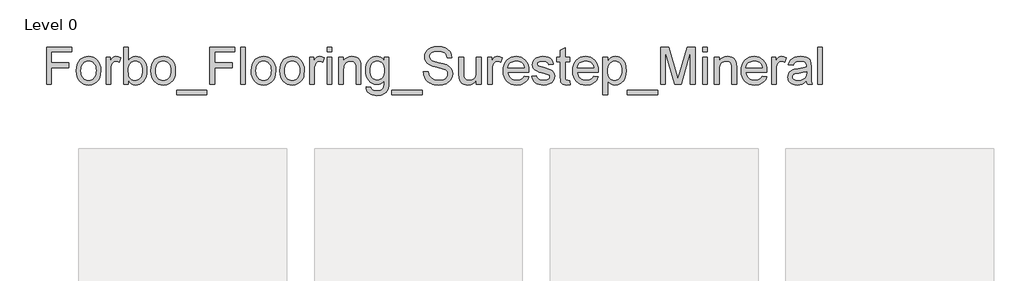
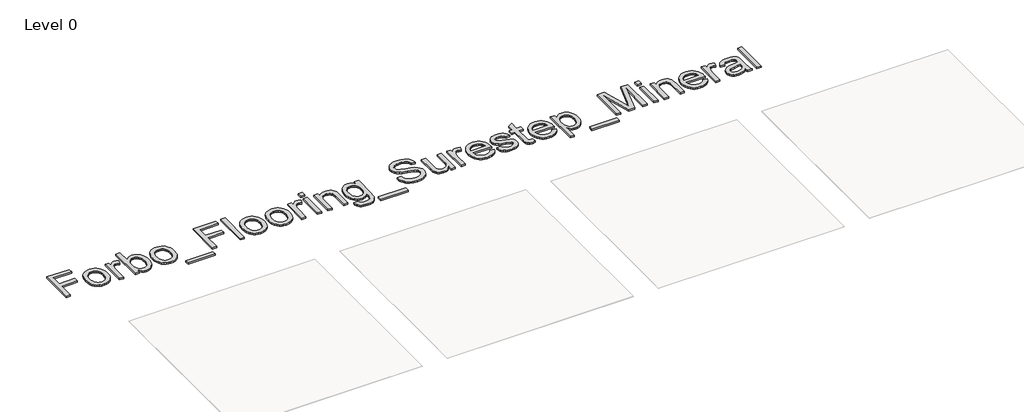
# One storey, part 3 of 4: 1 proxy.
"""IFC4 building model written with IfcOpenShell, lengths in millimetres."""

from ifc_helpers import new_model, si_unit, origin, origin_with_axes, place, context, project, spatial, polyline, outline, extrude, element, save

model = new_model("IFC4")

# Units and contexts
model_context = context("Model", 3, world=origin())
ifc_project = project(units=[si_unit("LENGTHUNIT", "METRE", prefix="MILLI")], contexts=[model_context])

# Site, building, storey
site = spatial("IfcSite", under=ifc_project)
building = spatial("IfcBuilding", under=site)
storey = spatial("IfcBuildingStorey", under=building, Name="Level 0", Elevation=0.0)

# Proxy
placement = place(None, origin())
element("IfcBuildingElementProxy", 1, Name="550mm Arial", ObjectType="550mm Arial", at=placement, inside=storey, context=model_context, shape_type="SweptSolid", body=[
    extrude(outline(polyline([(-4013.9388236, 6490.3509949), (-4013.9388236, 7029.0176615), (-3652.022157, 7029.0176615), (-3652.022157, 6961.6843282), (-3946.6054903, 6961.6843282), (-3946.6054903, 6801.7676615), (-3694.1054903, 6801.7676615), (-3694.1054903, 6734.4343282), (-3946.6054903, 6734.4343282), (-3946.6054903, 6490.3509949), (-4013.9388236, 6490.3509949)])), origin_with_axes(), (0.0, 0.0, 1.0), 25.0),
    extrude(outline(polyline([(-3584.6888236, 6688.1426615), (-3581.047629, 6739.3741882), (-3570.124045, 6783.5205912), (-3551.9180717, 6820.5818705), (-3526.4297091, 6850.5580261), (-3500.768739, 6869.7174499), (-3472.444683, 6883.4027527), (-3441.4575411, 6891.6139343), (-3407.8073132, 6894.3509949), (-3370.6597302, 6891.0180277), (-3337.0711479, 6881.0191264), (-3307.0415662, 6864.3542908), (-3280.5709851, 6841.0235209), (-3258.9662895, 6811.8158793), (-3243.534364, 6777.5204285), (-3234.2752087, 6738.1371684), (-3231.1888236, 6693.666099), (-3236.6465059, 6625.642336), (-3243.4686088, 6597.7210307), (-3253.0195528, 6573.8601094), (-3265.1801566, 6553.2499613), (-3279.831239, 6535.0809753), (-3296.9727999, 6519.3531514), (-3316.6048393, 6506.0664896), (-3360.2827364, 6487.9673686), (-3407.8073132, 6481.9343282), (-3445.4973767, 6485.2549662), (-3479.3982963, 6495.2168803), (-3509.510072, 6511.8200704), (-3535.8327038, 6535.0645365), (-3557.2072563, 6564.5557475), (-3572.4747937, 6599.8991719), (-3581.6353162, 6641.09481), (-3584.6888236, 6688.1426615)]), holes=[polyline([(-3517.3554903, 6688.2741719), (-3515.4074923, 6655.6143819), (-3509.5634981, 6627.3355326), (-3499.8235079, 6603.4376241), (-3486.1875216, 6583.9206563), (-3469.6007703, 6568.7599711), (-3451.0084851, 6557.9309102), (-3430.4106661, 6551.4334737), (-3407.8073132, 6549.2676615), (-3385.319032, 6551.4458028), (-3364.803407, 6557.9802266), (-3346.2604382, 6568.870933), (-3329.6901257, 6584.1179219), (-3316.0541394, 6603.8280456), (-3306.3141492, 6628.1081563), (-3300.470155, 6656.958254), (-3298.522157, 6690.3783386), (-3300.4824841, 6722.0024841), (-3306.3634656, 6749.5415873), (-3316.1651013, 6772.9956482), (-3329.8873913, 6792.3646667), (-3346.5193494, 6807.525352), (-3365.049989, 6818.3544128), (-3385.4793103, 6824.8518493), (-3407.8073132, 6827.0176615), (-3430.4106661, 6824.8600688), (-3451.0084851, 6818.3872904), (-3469.6007703, 6807.5993266), (-3486.1875216, 6792.4961771), (-3499.8235079, 6773.0367452), (-3509.5634981, 6749.1799337), (-3515.4074923, 6720.9257426), (-3517.3554903, 6688.2741719)])]), origin_with_axes(), (0.0, 0.0, 1.0), 25.0),
    extrude(outline(polyline([(-3155.4388236, 6490.3509949), (-3155.4388236, 6885.9343282), (-3096.522157, 6885.9343282), (-3096.522157, 6827.4121928), (-3074.757183, 6861.3418803), (-3054.7018445, 6881.3314636), (-3034.5807507, 6891.096112), (-3012.6185111, 6894.3509949), (-2979.0833549, 6889.1563334), (-2945.022157, 6873.572349), (-2967.5104382, 6813.2090678), (-2991.1823132, 6823.5655131), (-3014.8541882, 6827.0176615), (-3034.9588432, 6823.6970235), (-3052.9264538, 6813.7351094), (-3067.4419161, 6797.8881042), (-3077.1901257, 6776.9121928), (-3085.3766492, 6739.3002136), (-3088.1054903, 6698.2689636), (-3088.1054903, 6490.3509949), (-3155.4388236, 6490.3509949)])), origin_with_axes(), (0.0, 0.0, 1.0), 25.0),
    extrude(outline(polyline([(-2835.6054903, 6490.3509949), (-2902.9388236, 6490.3509949), (-2902.9388236, 7029.0176615), (-2835.6054903, 7029.0176615), (-2835.6054903, 6829.2533386), (-2813.4624239, 6857.7335632), (-2788.4590059, 6878.0765808), (-2760.5952364, 6890.2823913), (-2729.8711153, 6894.3509949), (-2695.1852429, 6890.685142), (-2662.4062716, 6879.6875834), (-2633.4082247, 6862.0487488), (-2610.0651257, 6838.4590678), (-2591.768739, 6809.1486837), (-2577.9108288, 6774.3477396), (-2569.1818249, 6735.5028503), (-2566.272157, 6694.0606303), (-2569.2845675, 6646.240155), (-2578.3217989, 6604.1732605), (-2593.3838513, 6567.8599467), (-2614.4707247, 6537.3002136), (-2639.7823702, 6513.0776387), (-2667.518739, 6495.7757995), (-2697.6798311, 6485.394696), (-2730.2656466, 6481.9343282), (-2762.000754, 6486.397463), (-2790.1357637, 6499.7868673), (-2814.6706759, 6522.1025411), (-2835.6054903, 6553.3444844), (-2835.6054903, 6490.3509949)]), holes=[polyline([(-2835.6054903, 6690.9043803), (-2831.0026257, 6634.7494324), (-2825.249045, 6613.4776225), (-2817.194032, 6596.7429219), (-2800.8785209, 6575.9724955), (-2781.9163627, 6561.1364766), (-2760.3075574, 6552.2348653), (-2736.0521049, 6549.2676615), (-2715.9145723, 6551.4540222), (-2697.1907768, 6558.0131042), (-2679.8807182, 6568.9449076), (-2663.9843966, 6584.2494324), (-2650.6936251, 6603.8855814), (-2641.2002169, 6627.8122579), (-2635.5041719, 6656.0294617), (-2633.6054903, 6688.5371928), (-2635.4260876, 6721.661379), (-2640.8878796, 6750.149823), (-2649.9908663, 6774.0025248), (-2662.7350476, 6793.2194844), (-2678.0601208, 6808.0061869), (-2694.9057833, 6818.5681173), (-2713.2720349, 6824.9052755), (-2733.1588757, 6827.0176615), (-2753.2964083, 6824.8313008), (-2772.0202038, 6818.2722188), (-2789.3302624, 6807.3404154), (-2805.2265841, 6792.0358907), (-2818.5173555, 6772.5970072), (-2828.0107637, 6749.2621277), (-2833.7068087, 6722.031252), (-2835.6054903, 6690.9043803)])]), origin_with_axes(), (0.0, 0.0, 1.0), 25.0),
    extrude(outline(polyline([(-2507.3554903, 6688.1426615), (-2503.7142956, 6739.3741882), (-2492.7907117, 6783.5205912), (-2474.5847384, 6820.5818705), (-2449.0963757, 6850.5580261), (-2423.4354057, 6869.7174499), (-2395.1113497, 6883.4027527), (-2364.1242078, 6891.6139343), (-2330.4739799, 6894.3509949), (-2293.3263969, 6891.0180277), (-2259.7378145, 6881.0191264), (-2229.7082328, 6864.3542908), (-2203.2376518, 6841.0235209), (-2181.6329561, 6811.8158793), (-2166.2010307, 6777.5204285), (-2156.9418754, 6738.1371684), (-2153.8554903, 6693.666099), (-2159.3131726, 6625.642336), (-2166.1352755, 6597.7210307), (-2175.6862195, 6573.8601094), (-2187.8468233, 6553.2499613), (-2202.4979057, 6535.0809753), (-2219.6394665, 6519.3531514), (-2239.2715059, 6506.0664896), (-2282.9494031, 6487.9673686), (-2330.4739799, 6481.9343282), (-2368.1640434, 6485.2549662), (-2402.064963, 6495.2168803), (-2432.1767387, 6511.8200704), (-2458.4993705, 6535.0645365), (-2479.8739229, 6564.5557475), (-2495.1414604, 6599.8991719), (-2504.3019828, 6641.09481), (-2507.3554903, 6688.1426615)]), holes=[polyline([(-2440.022157, 6688.2741719), (-2438.0741589, 6655.6143819), (-2432.2301648, 6627.3355326), (-2422.4901746, 6603.4376241), (-2408.8541882, 6583.9206563), (-2392.2674369, 6568.7599711), (-2373.6751518, 6557.9309102), (-2353.0773328, 6551.4334737), (-2330.4739799, 6549.2676615), (-2307.9856986, 6551.4458028), (-2287.4700736, 6557.9802266), (-2268.9271049, 6568.870933), (-2252.3567924, 6584.1179219), (-2238.7208061, 6603.8280456), (-2228.9808158, 6628.1081563), (-2223.1368217, 6656.958254), (-2221.1888236, 6690.3783386), (-2223.1491508, 6722.0024841), (-2229.0301322, 6749.5415873), (-2238.831768, 6772.9956482), (-2252.554058, 6792.3646667), (-2269.186016, 6807.525352), (-2287.7166557, 6818.3544128), (-2308.145977, 6824.8518493), (-2330.4739799, 6827.0176615), (-2353.0773328, 6824.8600688), (-2373.6751518, 6818.3872904), (-2392.2674369, 6807.5993266), (-2408.8541882, 6792.4961771), (-2422.4901746, 6773.0367452), (-2432.2301648, 6749.1799337), (-2438.0741589, 6720.9257426), (-2440.022157, 6688.2741719)])]), origin_with_axes(), (0.0, 0.0, 1.0), 25.0),
    extrude(outline(polyline([(-2137.022157, 6338.8509949), (-2137.022157, 6406.1843282), (-1699.3554903, 6406.1843282), (-1699.3554903, 6338.8509949), (-2137.022157, 6338.8509949)])), origin_with_axes(), (0.0, 0.0, 1.0), 25.0),
    extrude(outline(polyline([(-1657.272157, 6490.3509949), (-1657.272157, 7029.0176615), (-1295.3554903, 7029.0176615), (-1295.3554903, 6961.6843282), (-1589.9388236, 6961.6843282), (-1589.9388236, 6801.7676615), (-1337.4388236, 6801.7676615), (-1337.4388236, 6734.4343282), (-1589.9388236, 6734.4343282), (-1589.9388236, 6490.3509949), (-1657.272157, 6490.3509949)])), origin_with_axes(), (0.0, 0.0, 1.0), 25.0),
    extrude(outline(polyline([(-1211.1888236, 6490.3509949), (-1211.1888236, 7029.0176615), (-1143.8554903, 7029.0176615), (-1143.8554903, 6490.3509949), (-1211.1888236, 6490.3509949)])), origin_with_axes(), (0.0, 0.0, 1.0), 25.0),
    extrude(outline(polyline([(-1059.6888236, 6688.1426615), (-1056.047629, 6739.3741882), (-1045.124045, 6783.5205912), (-1026.9180717, 6820.5818705), (-1001.4297091, 6850.5580261), (-975.768739, 6869.7174499), (-947.444683, 6883.4027527), (-916.4575411, 6891.6139343), (-882.8073132, 6894.3509949), (-845.6597302, 6891.0180277), (-812.0711479, 6881.0191264), (-782.0415662, 6864.3542908), (-755.5709851, 6841.0235209), (-733.9662895, 6811.8158793), (-718.534364, 6777.5204285), (-709.2752087, 6738.1371684), (-706.1888236, 6693.666099), (-711.6465059, 6625.642336), (-718.4686088, 6597.7210307), (-728.0195528, 6573.8601094), (-740.1801566, 6553.2499613), (-754.831239, 6535.0809753), (-771.9727999, 6519.3531514), (-791.6048393, 6506.0664896), (-835.2827364, 6487.9673686), (-882.8073132, 6481.9343282), (-920.4973767, 6485.2549662), (-954.3982963, 6495.2168803), (-984.510072, 6511.8200704), (-1010.8327038, 6535.0645365), (-1032.2072563, 6564.5557475), (-1047.4747937, 6599.8991719), (-1056.6353162, 6641.09481), (-1059.6888236, 6688.1426615)]), holes=[polyline([(-992.3554903, 6688.2741719), (-990.4074923, 6655.6143819), (-984.5634981, 6627.3355326), (-974.8235079, 6603.4376241), (-961.1875216, 6583.9206563), (-944.6007703, 6568.7599711), (-926.0084851, 6557.9309102), (-905.4106661, 6551.4334737), (-882.8073132, 6549.2676615), (-860.319032, 6551.4458028), (-839.803407, 6557.9802266), (-821.2604382, 6568.870933), (-804.6901257, 6584.1179219), (-791.0541394, 6603.8280456), (-781.3141492, 6628.1081563), (-775.470155, 6656.958254), (-773.522157, 6690.3783386), (-775.4824841, 6722.0024841), (-781.3634656, 6749.5415873), (-791.1651013, 6772.9956482), (-804.8873913, 6792.3646667), (-821.5193494, 6807.525352), (-840.049989, 6818.3544128), (-860.4793103, 6824.8518493), (-882.8073132, 6827.0176615), (-905.4106661, 6824.8600688), (-926.0084851, 6818.3872904), (-944.6007703, 6807.5993266), (-961.1875216, 6792.4961771), (-974.8235079, 6773.0367452), (-984.5634981, 6749.1799337), (-990.4074923, 6720.9257426), (-992.3554903, 6688.2741719)])]), origin_with_axes(), (0.0, 0.0, 1.0), 25.0),
    extrude(outline(polyline([(-647.272157, 6688.1426615), (-643.6309623, 6739.3741882), (-632.7073783, 6783.5205912), (-614.501405, 6820.5818705), (-589.0130424, 6850.5580261), (-563.3520723, 6869.7174499), (-535.0280163, 6883.4027527), (-504.0408744, 6891.6139343), (-470.3906466, 6894.3509949), (-433.2430636, 6891.0180277), (-399.6544812, 6881.0191264), (-369.6248995, 6864.3542908), (-343.1543184, 6841.0235209), (-321.5496228, 6811.8158793), (-306.1176973, 6777.5204285), (-296.8585421, 6738.1371684), (-293.772157, 6693.666099), (-299.2298393, 6625.642336), (-306.0519421, 6597.7210307), (-315.6028861, 6573.8601094), (-327.76349, 6553.2499613), (-342.4145723, 6535.0809753), (-359.5561332, 6519.3531514), (-379.1881726, 6506.0664896), (-422.8660697, 6487.9673686), (-470.3906466, 6481.9343282), (-508.08071, 6485.2549662), (-541.9816296, 6495.2168803), (-572.0934053, 6511.8200704), (-598.4160372, 6535.0645365), (-619.7905896, 6564.5557475), (-635.058127, 6599.8991719), (-644.2186495, 6641.09481), (-647.272157, 6688.1426615)]), holes=[polyline([(-579.9388236, 6688.2741719), (-577.9908256, 6655.6143819), (-572.1468315, 6627.3355326), (-562.4068412, 6603.4376241), (-548.7708549, 6583.9206563), (-532.1841036, 6568.7599711), (-513.5918184, 6557.9309102), (-492.9939994, 6551.4334737), (-470.3906466, 6549.2676615), (-447.9023653, 6551.4458028), (-427.3867403, 6557.9802266), (-408.8437716, 6568.870933), (-392.2734591, 6584.1179219), (-378.6374727, 6603.8280456), (-368.8974825, 6628.1081563), (-363.0534884, 6656.958254), (-361.1054903, 6690.3783386), (-363.0658175, 6722.0024841), (-368.9467989, 6749.5415873), (-378.7484346, 6772.9956482), (-392.4707247, 6792.3646667), (-409.1026827, 6807.525352), (-427.6333223, 6818.3544128), (-448.0626436, 6824.8518493), (-470.3906466, 6827.0176615), (-492.9939994, 6824.8600688), (-513.5918184, 6818.3872904), (-532.1841036, 6807.5993266), (-548.7708549, 6792.4961771), (-562.4068412, 6773.0367452), (-572.1468315, 6749.1799337), (-577.9908256, 6720.9257426), (-579.9388236, 6688.2741719)])]), origin_with_axes(), (0.0, 0.0, 1.0), 25.0),
    extrude(outline(polyline([(-218.022157, 6490.3509949), (-218.022157, 6885.9343282), (-159.1054903, 6885.9343282), (-159.1054903, 6827.4121928), (-137.3405163, 6861.3418803), (-117.2851778, 6881.3314636), (-97.1640841, 6891.096112), (-75.2018445, 6894.3509949), (-41.6666882, 6889.1563334), (-7.6054903, 6873.572349), (-30.0937716, 6813.2090678), (-53.7656466, 6823.5655131), (-77.4375216, 6827.0176615), (-97.5421765, 6823.6970235), (-115.5097872, 6813.7351094), (-130.0252494, 6797.8881042), (-139.7734591, 6776.9121928), (-147.9599825, 6739.3002136), (-150.6888236, 6698.2689636), (-150.6888236, 6490.3509949), (-218.022157, 6490.3509949)])), origin_with_axes(), (0.0, 0.0, 1.0), 25.0),
    extrude(outline(polyline([(34.477843, 6490.3509949), (34.477843, 6885.9343282), (101.8111764, 6885.9343282), (101.8111764, 6490.3509949), (34.477843, 6490.3509949)])), origin_with_axes(), (0.0, 0.0, 1.0), 25.0),
    extrude(outline(polyline([(34.477843, 6961.6843282), (34.477843, 7029.0176615), (101.8111764, 7029.0176615), (101.8111764, 6961.6843282), (34.477843, 6961.6843282)])), origin_with_axes(), (0.0, 0.0, 1.0), 25.0),
    extrude(outline(polyline([(202.8111764, 6490.3509949), (202.8111764, 6885.9343282), (270.1445097, 6885.9343282), (270.1445097, 6830.6999532), (293.5369251, 6858.5472839), (321.6308378, 6878.4382344), (354.426248, 6890.3728048), (391.9231555, 6894.3509949), (425.1130969, 6891.1454285), (455.508442, 6881.5287292), (480.8570748, 6866.7009298), (498.9068795, 6847.8620626), (511.153787, 6825.0614441), (519.0937284, 6798.3483907), (522.6445097, 6733.2507344), (522.6445097, 6490.3509949), (455.3111764, 6490.3509949), (455.3111764, 6724.1765157), (453.3713977, 6758.9938985), (447.5520618, 6783.7507344), (436.817524, 6801.4882019), (420.1321399, 6815.2474792), (398.7452584, 6824.075116), (373.9062284, 6827.0176615), (353.4604684, 6825.3655619), (334.4695422, 6820.4092631), (316.9334501, 6812.148765), (300.852192, 6800.5840678), (287.417581, 6784.4000671), (277.8214303, 6762.2816589), (272.0637398, 6734.2288432), (270.1445097, 6700.2416199), (270.1445097, 6490.3509949), (202.8111764, 6490.3509949)])), origin_with_axes(), (0.0, 0.0, 1.0), 25.0),
    extrude(outline(polyline([(598.3945097, 6456.6843282), (665.727843, 6448.2676615), (673.1581816, 6427.2259949), (687.5585722, 6412.759849), (715.8661894, 6401.5157084), (752.9192493, 6397.7676615), (792.4381295, 6402.0088725), (821.8307076, 6414.7325053), (842.2148222, 6435.1166199), (854.7083118, 6462.3392761), (858.3577258, 6491.3044454), (859.3111764, 6540.8509949), (836.9050891, 6518.7572449), (811.9016712, 6502.9759949), (784.3009225, 6493.5072449), (754.102843, 6490.3509949), (717.1854032, 6494.0250671), (684.6817818, 6505.0472839), (656.5919788, 6523.4176452), (632.9159941, 6549.1361511), (614.130553, 6579.9917826), (600.7123808, 6613.7735209), (592.6614775, 6650.481366), (589.977843, 6690.1153178), (594.794412, 6744.4784363), (609.2441191, 6794.4688334), (619.9539986, 6817.0105408), (632.8173613, 6836.8316264), (647.834207, 6853.9320902), (665.0045357, 6868.3119324), (684.0529976, 6879.7040222), (704.7042428, 6887.8412292), (726.9582711, 6892.7235535), (750.8150826, 6894.3509949), (782.303608, 6890.6687032), (810.8824654, 6879.6218282), (836.5516549, 6861.2103699), (859.3111764, 6835.4343282), (859.3111764, 6885.9343282), (926.6445097, 6885.9343282), (926.6445097, 6544.4017761), (922.0416451, 6465.5448425), (916.2880644, 6436.2139099), (908.2330514, 6413.6146667), (897.6834501, 6395.3881449), (884.4461047, 6379.1753764), (868.5210152, 6364.9763611), (849.9081816, 6352.791099), (828.79665, 6343.0100118), (805.3754667, 6336.0235209), (751.6041451, 6330.4343282), (718.615579, 6332.4028747), (688.9558704, 6338.3085144), (662.6250191, 6348.1512471), (639.6230253, 6361.931073), (621.0430693, 6379.6644307), (607.9783313, 6401.3677592), (600.4288114, 6427.0410583), (598.3945097, 6456.6843282)]), holes=[polyline([(657.3111764, 6694.7181824), (659.1071155, 6661.4254984), (664.4949329, 6632.9576029), (673.4746285, 6609.3144958), (686.0462024, 6590.4961771), (701.3301786, 6576.1409932), (718.4470813, 6565.8872904), (737.3969104, 6559.7350688), (758.1796659, 6557.6843282), (778.7569364, 6559.7227396), (797.6163521, 6565.837974), (814.757913, 6576.0300313), (830.1816191, 6590.2989115), (842.9258004, 6608.9322937), (852.028787, 6632.2178568), (857.490579, 6660.155601), (859.3111764, 6692.7455261), (857.4371529, 6723.9751404), (851.8150826, 6751.1197123), (842.4449654, 6774.1792419), (829.3268014, 6793.1537292), (813.5702096, 6807.9691996), (796.2848092, 6818.5516785), (777.4706002, 6824.9011658), (757.1275826, 6827.0176615), (737.1256702, 6824.9340434), (718.6772245, 6818.6831889), (701.7822457, 6808.265098), (686.4407337, 6793.6797709), (673.6965523, 6774.9929626), (664.5935657, 6752.2704285), (659.1317737, 6725.5121684), (657.3111764, 6694.7181824)])]), origin_with_axes(), (0.0, 0.0, 1.0), 25.0),
    extrude(outline(polyline([(968.727843, 6338.8509949), (968.727843, 6406.1843282), (1406.3945097, 6406.1843282), (1406.3945097, 6338.8509949), (968.727843, 6338.8509949)])), origin_with_axes(), (0.0, 0.0, 1.0), 25.0),
    extrude(outline(polyline([(1423.227843, 6675.5176615), (1490.5611764, 6675.5176615), (1498.2874133, 6638.1522644), (1512.2603951, 6608.118573), (1534.0582467, 6584.28231), (1565.259093, 6565.509198), (1603.3971139, 6553.3280456), (1646.0064889, 6549.2676615), (1683.5198352, 6552.3417175), (1716.3645618, 6561.5638855), (1742.9789823, 6576.1615417), (1761.8014107, 6595.3620626), (1772.996235, 6617.4064962), (1776.727843, 6640.5358907), (1773.9332467, 6663.0734883), (1765.5494576, 6682.5534688), (1748.5188587, 6699.1730977), (1719.7838326, 6713.1296407), (1621.742817, 6738.8399271), (1557.3849068, 6755.8540873), (1516.2057076, 6772.0463074), (1482.6869902, 6794.6989766), (1458.9329212, 6822.1517761), (1444.7791126, 6853.8129089), (1440.0611764, 6889.0905782), (1445.8969511, 6928.5272644), (1463.4042753, 6965.3008646), (1476.4196969, 6981.9533712), (1492.1228626, 6996.4688334), (1510.5137724, 7008.8472514), (1531.5924264, 7019.0886251), (1578.969054, 7032.8479024), (1631.4088326, 7037.4343282), (1688.2213326, 7032.634198), (1737.9322701, 7018.2338074), (1759.6808053, 7007.507489), (1778.7662545, 6994.5290548), (1795.1886178, 6979.2985046), (1808.9478951, 6961.8158386), (1828.0497831, 6922.1325704), (1835.6445097, 6877.5176615), (1768.3111764, 6877.5176615), (1763.8069446, 6899.0031758), (1755.9491972, 6917.6940938), (1744.7379342, 6933.5904154), (1730.1731555, 6946.6921407), (1711.983621, 6956.9335144), (1689.8980904, 6964.2487813), (1663.9165637, 6968.6379415), (1634.0390409, 6970.1009949), (1603.2080676, 6968.6543803), (1576.8648873, 6964.3145365), (1555.0094999, 6957.0814636), (1537.6419055, 6946.9551615), (1524.4086698, 6934.7822286), (1514.9563587, 6921.4092631), (1509.2849719, 6906.836265), (1507.3945097, 6891.0632344), (1512.7535592, 6865.18856), (1528.8307076, 6844.3770365), (1543.5927519, 6835.121991), (1566.837218, 6825.7683126), (1638.7734159, 6806.7650574), (1713.0110462, 6788.7152527), (1757.9218534, 6772.9668803), (1796.3064563, 6748.5388204), (1823.0852649, 6718.3900574), (1838.8171985, 6682.8493673), (1844.0611764, 6642.2455261), (1838.028136, 6600.7375508), (1819.9290149, 6561.6953959), (1806.5396106, 6543.8428568), (1790.5035592, 6528.0944844), (1771.8208606, 6514.4502787), (1750.4915149, 6502.9102396), (1702.3751412, 6487.1783061), (1648.6366972, 6481.9343282), (1582.6677844, 6487.5892761), (1554.0601591, 6494.657961), (1528.3704212, 6504.5541199), (1505.4424019, 6517.2941915), (1485.1199329, 6532.8946146), (1467.4030139, 6551.3553894), (1452.2916451, 6572.6765157), (1440.1187122, 6596.1675639), (1431.2171008, 6621.1381042), (1425.5868111, 6647.5881368), (1423.227843, 6675.5176615)])), origin_with_axes(), (0.0, 0.0, 1.0), 25.0),
    extrude(outline(polyline([(2189.1445097, 6490.3509949), (2189.1445097, 6558.3418803), (2164.782205, 6524.9135762), (2136.4088326, 6501.0362162), (2104.0243925, 6486.7098002), (2067.6288847, 6481.9343282), (2034.8334745, 6485.2878438), (2004.3066191, 6495.3483907), (1978.6949654, 6510.4720886), (1960.6451607, 6529.0150574), (1948.496886, 6551.5362162), (1940.5898222, 6578.5944844), (1936.6445097, 6641.1934428), (1936.6445097, 6885.9343282), (2003.977843, 6885.9343282), (2003.977843, 6672.8874532), (2008.0546659, 6604.2390157), (2017.8686308, 6581.3397644), (2034.6855253, 6563.931073), (2057.387511, 6552.9335144), (2084.8567493, 6549.2676615), (2113.9041126, 6553.0157084), (2141.0774524, 6564.259849), (2163.4835396, 6581.9644389), (2178.2291451, 6605.0938334), (2186.4156685, 6636.771405), (2189.1445097, 6680.1205261), (2189.1445097, 6885.9343282), (2256.477843, 6885.9343282), (2256.477843, 6490.3509949), (2189.1445097, 6490.3509949)])), origin_with_axes(), (0.0, 0.0, 1.0), 25.0),
    extrude(outline(polyline([(2349.0611764, 6490.3509949), (2349.0611764, 6885.9343282), (2407.977843, 6885.9343282), (2407.977843, 6827.4121928), (2429.742817, 6861.3418803), (2449.7981555, 6881.3314636), (2469.9192493, 6891.096112), (2491.8814889, 6894.3509949), (2525.4166451, 6889.1563334), (2559.477843, 6873.572349), (2536.9895618, 6813.2090678), (2513.3176868, 6823.5655131), (2489.6458118, 6827.0176615), (2469.5411568, 6823.6970235), (2451.5735462, 6813.7351094), (2437.0580839, 6797.8881042), (2427.3098743, 6776.9121928), (2419.1233508, 6739.3002136), (2416.3945097, 6698.2689636), (2416.3945097, 6490.3509949), (2349.0611764, 6490.3509949)])), origin_with_axes(), (0.0, 0.0, 1.0), 25.0),
    extrude(outline(polyline([(2878.5221139, 6608.1843282), (2944.540343, 6599.7676615), (2934.4181506, 6573.3258484), (2920.7533964, 6550.0238464), (2903.5460803, 6529.8616557), (2882.7962024, 6512.8392761), (2858.717467, 6499.3183614), (2831.5235787, 6489.6605652), (2801.2145374, 6483.8658874), (2767.790343, 6481.9343282), (2726.0111275, 6485.2672953), (2688.7854602, 6495.2661967), (2656.1133411, 6511.9310323), (2627.9947701, 6535.2618021), (2605.3831978, 6564.6091736), (2589.2320748, 6599.3238139), (2579.541401, 6639.405723), (2576.3111764, 6684.8549011), (2579.5742786, 6731.8452169), (2589.3635852, 6773.2627787), (2605.6790963, 6809.1075867), (2628.5208118, 6839.3796407), (2656.5654081, 6863.4296081), (2688.4895618, 6880.6081563), (2724.2932727, 6890.9152852), (2763.9765409, 6894.3509949), (2802.3816923, 6890.9235046), (2837.1127714, 6880.6410339), (2868.1697782, 6863.5035827), (2895.5527128, 6839.5111511), (2917.9053739, 6809.3048523), (2933.8715605, 6773.5257995), (2943.4512724, 6732.1739929), (2946.6445097, 6685.2494324), (2946.2499784, 6667.1009949), (2643.6445097, 6667.1009949), (2647.5446155, 6640.2317729), (2655.2996204, 6616.6996277), (2666.9095243, 6596.5045593), (2682.3743274, 6579.6465678), (2700.8392118, 6566.3557963), (2721.44936, 6556.8623881), (2744.2047717, 6551.1663432), (2769.1054472, 6549.2676615), (2804.9420357, 6552.7855652), (2835.1236764, 6563.3392761), (2859.6503691, 6581.5863464), (2878.5221139, 6608.1843282)]), holes=[polyline([(2643.6445097, 6734.4343282), (2879.3111764, 6734.4343282), (2870.20408, 6770.0078959), (2862.3709908, 6783.9973165), (2852.3515409, 6795.4551615), (2833.989399, 6809.2637553), (2813.0956816, 6819.1270365), (2789.6703886, 6825.0450053), (2763.7135201, 6827.0176615), (2740.0375354, 6825.4436462), (2718.3259876, 6820.7216003), (2698.5788766, 6812.8515238), (2680.7962024, 6801.8334167), (2665.8738798, 6788.1768819), (2654.7078235, 6772.3915222), (2647.2980335, 6754.4773376), (2643.6445097, 6734.4343282)])]), origin_with_axes(), (0.0, 0.0, 1.0), 25.0),
    extrude(outline(polyline([(2988.727843, 6608.1843282), (3056.0611764, 6616.6009949), (3066.6806425, 6587.8002136), (3087.2291451, 6566.6270365), (3117.8381946, 6553.6075053), (3158.6393014, 6549.2676615), (3198.9472441, 6553.2458516), (3227.2877389, 6565.1804219), (3244.055317, 6582.4740417), (3249.6445097, 6602.5293803), (3244.0224394, 6619.6914896), (3227.1562284, 6632.7767761), (3157.8502389, 6651.9772969), (3096.4019967, 6669.747642), (3056.4557076, 6684.9206563), (3030.7947376, 6701.47453), (3012.2024524, 6723.3874532), (3000.9089954, 6749.2621277), (2997.1445097, 6777.7012553), (3000.1692493, 6803.7896342), (3009.243468, 6827.8724792), (3023.5452258, 6848.9963399), (3042.2525826, 6866.2077657), (3060.8448678, 6877.0409363), (3085.0592232, 6886.1315938), (3113.0545032, 6892.2961446), (3142.9895618, 6894.3509949), (3186.8154081, 6891.0467956), (3224.9205514, 6881.134198), (3255.5624784, 6865.5830912), (3276.9986764, 6845.3633646), (3291.2018014, 6818.9790873), (3300.1445097, 6784.9343282), (3232.8111764, 6776.5176615), (3224.3123157, 6797.7072774), (3207.4954212, 6813.6693542), (3182.1961047, 6823.6805847), (3148.2499784, 6827.0176615), (3109.5859159, 6823.8285339), (3083.8098743, 6814.2611511), (3069.3108508, 6800.4525574), (3064.477843, 6784.5397969), (3066.4833769, 6774.1833516), (3072.4999784, 6764.9447449), (3082.7906685, 6756.6924662), (3097.618468, 6750.0840678), (3155.6145618, 6735.7494324), (3254.4446399, 6704.0554219), (3280.5494576, 6688.8988464), (3300.3417753, 6668.1530782), (3312.8188261, 6641.752362), (3316.977843, 6609.6309428), (3312.0955188, 6576.4245626), (3297.4485462, 6545.1908386), (3273.5958443, 6518.3791524), (3241.0963326, 6498.4388855), (3201.8404732, 6486.0604675), (3157.7187284, 6481.9343282), (3121.4793892, 6483.9234232), (3089.8264758, 6489.8907084), (3062.7599882, 6499.8361837), (3040.2799264, 6513.759849), (3021.9177844, 6531.5959493), (3007.2050566, 6553.2787292), (2996.1417428, 6578.8081889), (2988.727843, 6608.1843282)])), origin_with_axes(), (0.0, 0.0, 1.0), 25.0),
    extrude(outline(polyline([(3535.8111764, 6546.5059428), (3544.227843, 6488.3783386), (3493.8593534, 6481.9343282), (3461.5406685, 6484.7289245), (3437.4413847, 6493.1127136), (3420.4107857, 6506.033612), (3409.2981555, 6522.4395365), (3403.1829212, 6550.6156433), (3401.1445097, 6598.8470886), (3401.1445097, 6818.6009949), (3350.6445097, 6818.6009949), (3350.6445097, 6885.9343282), (3401.1445097, 6885.9343282), (3401.1445097, 6982.0684428), (3468.477843, 7021.6530782), (3468.477843, 6885.9343282), (3535.8111764, 6885.9343282), (3535.8111764, 6818.6009949), (3468.477843, 6818.6009949), (3468.477843, 6600.8197449), (3472.0286243, 6566.1009949), (3483.5357857, 6553.8047709), (3506.4843534, 6549.2676615), (3535.8111764, 6546.5059428)])), origin_with_axes(), (0.0, 0.0, 1.0), 25.0),
    extrude(outline(polyline([(3880.1054472, 6608.1843282), (3946.1236764, 6599.7676615), (3936.001484, 6573.3258484), (3922.3367297, 6550.0238464), (3905.1294137, 6529.8616557), (3884.3795357, 6512.8392761), (3860.3008004, 6499.3183614), (3833.106912, 6489.6605652), (3802.7978707, 6483.8658874), (3769.3736764, 6481.9343282), (3727.5944609, 6485.2672953), (3690.3687935, 6495.2661967), (3657.6966744, 6511.9310323), (3629.5781034, 6535.2618021), (3606.9665312, 6564.6091736), (3590.8154081, 6599.3238139), (3581.1247343, 6639.405723), (3577.8945097, 6684.8549011), (3581.1576119, 6731.8452169), (3590.9469185, 6773.2627787), (3607.2624296, 6809.1075867), (3630.1041451, 6839.3796407), (3658.1487415, 6863.4296081), (3690.0728951, 6880.6081563), (3725.876606, 6890.9152852), (3765.5598743, 6894.3509949), (3803.9650256, 6890.9235046), (3838.6961047, 6880.6410339), (3869.7531116, 6863.5035827), (3897.1360462, 6839.5111511), (3919.4887073, 6809.3048523), (3935.4548938, 6773.5257995), (3945.0346057, 6732.1739929), (3948.227843, 6685.2494324), (3947.8333118, 6667.1009949), (3645.227843, 6667.1009949), (3649.1279488, 6640.2317729), (3656.8829537, 6616.6996277), (3668.4928577, 6596.5045593), (3683.9576607, 6579.6465678), (3702.4225452, 6566.3557963), (3723.0326933, 6556.8623881), (3745.7881051, 6551.1663432), (3770.6887805, 6549.2676615), (3806.5253691, 6552.7855652), (3836.7070097, 6563.3392761), (3861.2337024, 6581.5863464), (3880.1054472, 6608.1843282)]), holes=[polyline([(3645.227843, 6734.4343282), (3880.8945097, 6734.4343282), (3871.7874133, 6770.0078959), (3863.9543241, 6783.9973165), (3853.9348743, 6795.4551615), (3835.5727323, 6809.2637553), (3814.6790149, 6819.1270365), (3791.2537219, 6825.0450053), (3765.2968534, 6827.0176615), (3741.6208687, 6825.4436462), (3719.9093209, 6820.7216003), (3700.1622099, 6812.8515238), (3682.3795357, 6801.8334167), (3667.4572131, 6788.1768819), (3656.2911568, 6772.3915222), (3648.8813668, 6754.4773376), (3645.227843, 6734.4343282)])]), origin_with_axes(), (0.0, 0.0, 1.0), 25.0),
    extrude(outline(polyline([(4015.5611764, 6338.8509949), (4015.5611764, 6885.9343282), (4082.8945097, 6885.9343282), (4082.8945097, 6819.916099), (4104.8567493, 6852.481366), (4129.4491972, 6875.7422709), (4158.118468, 6889.6988139), (4192.3111764, 6894.3509949), (4215.7940051, 6892.7235535), (4237.8466581, 6887.8412292), (4258.4691353, 6879.7040222), (4277.6614368, 6868.3119324), (4295.004373, 6853.9608581), (4310.0787545, 6836.946698), (4322.8845813, 6817.2694519), (4333.4218534, 6794.9291199), (4347.5263456, 6745.3168152), (4352.227843, 6691.1674011), (4346.91811, 6633.5822774), (4330.9889107, 6582.0795105), (4319.169412, 6559.2624532), (4304.9498482, 6539.2728699), (4288.3302193, 6522.1107605), (4269.3105253, 6507.7761251), (4227.8025501, 6488.3947774), (4206.2471708, 6483.5494405), (4184.1575305, 6481.9343282), (4153.2032662, 6486.2577331), (4125.5696399, 6499.227948), (4101.9142037, 6518.8065613), (4082.8945097, 6542.9551615), (4082.8945097, 6338.8509949), (4015.5611764, 6338.8509949)]), holes=[polyline([(4082.8945097, 6684.9864115), (4084.715107, 6652.5362162), (4090.176899, 6624.6231303), (4099.2798857, 6601.2471537), (4112.024067, 6582.4082865), (4127.365579, 6567.9092631), (4144.2605579, 6557.5528178), (4162.7090035, 6551.3389506), (4182.7109159, 6549.2676615), (4203.0005074, 6551.4129252), (4221.7859485, 6557.8487162), (4239.0672392, 6568.5750346), (4254.8443795, 6583.5918803), (4267.9913114, 6603.1129577), (4277.3819771, 6627.3519714), (4283.0163766, 6656.3089213), (4284.8945097, 6689.9838074), (4283.0615833, 6722.154543), (4277.562804, 6750.0183126), (4268.3981718, 6773.575116), (4255.5676868, 6792.8249532), (4240.1891874, 6807.7842631), (4223.3805123, 6818.4694844), (4205.1416614, 6824.8806173), (4185.4726347, 6827.0176615), (4165.8652535, 6824.7449971), (4147.4168079, 6817.927004), (4130.1272978, 6806.563682), (4113.9967232, 6790.6550313), (4100.3895048, 6770.4147563), (4090.6700631, 6746.0565613), (4084.838398, 6717.5804464), (4082.8945097, 6684.9864115)])]), origin_with_axes(), (0.0, 0.0, 1.0), 25.0),
    extrude(outline(polyline([(4369.0611764, 6338.8509949), (4369.0611764, 6406.1843282), (4806.727843, 6406.1843282), (4806.727843, 6338.8509949), (4369.0611764, 6338.8509949)])), origin_with_axes(), (0.0, 0.0, 1.0), 25.0),
    extrude(outline(polyline([(4848.8111764, 6490.3509949), (4848.8111764, 7029.0176615), (4964.6718534, 7029.0176615), (5074.8775826, 6649.3470886), (5097.102843, 6570.0463074), (5121.1692493, 6655.9226094), (5229.5338326, 7029.0176615), (5345.3945097, 7029.0176615), (5345.3945097, 6490.3509949), (5278.0611764, 6490.3509949), (5278.0611764, 6961.6843282), (5142.7369576, 6490.3509949), (5051.4687284, 6490.3509949), (4916.1445097, 6961.6843282), (4916.1445097, 6490.3509949), (4848.8111764, 6490.3509949)])), origin_with_axes(), (0.0, 0.0, 1.0), 25.0),
    extrude(outline(polyline([(5454.8111764, 6961.6843282), (5454.8111764, 7029.0176615), (5522.1445097, 7029.0176615), (5522.1445097, 6961.6843282), (5454.8111764, 6961.6843282)])), origin_with_axes(), (0.0, 0.0, 1.0), 25.0),
    extrude(outline(polyline([(5454.8111764, 6490.3509949), (5454.8111764, 6885.9343282), (5522.1445097, 6885.9343282), (5522.1445097, 6490.3509949), (5454.8111764, 6490.3509949)])), origin_with_axes(), (0.0, 0.0, 1.0), 25.0),
    extrude(outline(polyline([(5623.1445097, 6490.3509949), (5623.1445097, 6885.9343282), (5690.477843, 6885.9343282), (5690.477843, 6830.6999532), (5713.8702584, 6858.5472839), (5741.9641712, 6878.4382344), (5774.7595813, 6890.3728048), (5812.2564889, 6894.3509949), (5845.4464303, 6891.1454285), (5875.8417753, 6881.5287292), (5901.1904081, 6866.7009298), (5919.2402128, 6847.8620626), (5931.4871204, 6825.0614441), (5939.4270618, 6798.3483907), (5942.977843, 6733.2507344), (5942.977843, 6490.3509949), (5875.6445097, 6490.3509949), (5875.6445097, 6724.1765157), (5873.704731, 6758.9938985), (5867.8853951, 6783.7507344), (5857.1508573, 6801.4882019), (5840.4654732, 6815.2474792), (5819.0785917, 6824.075116), (5794.2395618, 6827.0176615), (5773.7938017, 6825.3655619), (5754.8028756, 6820.4092631), (5737.2667835, 6812.148765), (5721.1855253, 6800.5840678), (5707.7509143, 6784.4000671), (5698.1547636, 6762.2816589), (5692.3970732, 6734.2288432), (5690.477843, 6700.2416199), (5690.477843, 6490.3509949), (5623.1445097, 6490.3509949)])), origin_with_axes(), (0.0, 0.0, 1.0), 25.0),
    extrude(outline(polyline([(6312.5221139, 6608.1843282), (6378.540343, 6599.7676615), (6368.4181506, 6573.3258484), (6354.7533964, 6550.0238464), (6337.5460803, 6529.8616557), (6316.7962024, 6512.8392761), (6292.717467, 6499.3183614), (6265.5235787, 6489.6605652), (6235.2145374, 6483.8658874), (6201.790343, 6481.9343282), (6160.0111275, 6485.2672953), (6122.7854602, 6495.2661967), (6090.1133411, 6511.9310323), (6061.9947701, 6535.2618021), (6039.3831978, 6564.6091736), (6023.2320748, 6599.3238139), (6013.541401, 6639.405723), (6010.3111764, 6684.8549011), (6013.5742786, 6731.8452169), (6023.3635852, 6773.2627787), (6039.6790963, 6809.1075867), (6062.5208118, 6839.3796407), (6090.5654081, 6863.4296081), (6122.4895618, 6880.6081563), (6158.2932727, 6890.9152852), (6197.9765409, 6894.3509949), (6236.3816923, 6890.9235046), (6271.1127714, 6880.6410339), (6302.1697782, 6863.5035827), (6329.5527128, 6839.5111511), (6351.9053739, 6809.3048523), (6367.8715605, 6773.5257995), (6377.4512724, 6732.1739929), (6380.6445097, 6685.2494324), (6380.2499784, 6667.1009949), (6077.6445097, 6667.1009949), (6081.5446155, 6640.2317729), (6089.2996204, 6616.6996277), (6100.9095243, 6596.5045593), (6116.3743274, 6579.6465678), (6134.8392118, 6566.3557963), (6155.44936, 6556.8623881), (6178.2047717, 6551.1663432), (6203.1054472, 6549.2676615), (6238.9420357, 6552.7855652), (6269.1236764, 6563.3392761), (6293.6503691, 6581.5863464), (6312.5221139, 6608.1843282)]), holes=[polyline([(6077.6445097, 6734.4343282), (6313.3111764, 6734.4343282), (6304.20408, 6770.0078959), (6296.3709908, 6783.9973165), (6286.3515409, 6795.4551615), (6267.989399, 6809.2637553), (6247.0956816, 6819.1270365), (6223.6703886, 6825.0450053), (6197.7135201, 6827.0176615), (6174.0375354, 6825.4436462), (6152.3259876, 6820.7216003), (6132.5788766, 6812.8515238), (6114.7962024, 6801.8334167), (6099.8738798, 6788.1768819), (6088.7078235, 6772.3915222), (6081.2980335, 6754.4773376), (6077.6445097, 6734.4343282)])]), origin_with_axes(), (0.0, 0.0, 1.0), 25.0),
    extrude(outline(polyline([(6447.977843, 6490.3509949), (6447.977843, 6885.9343282), (6506.8945097, 6885.9343282), (6506.8945097, 6827.4121928), (6528.6594837, 6861.3418803), (6548.7148222, 6881.3314636), (6568.8359159, 6891.096112), (6590.7981555, 6894.3509949), (6624.3333118, 6889.1563334), (6658.3945097, 6873.572349), (6635.9062284, 6813.2090678), (6612.2343534, 6823.5655131), (6588.5624784, 6827.0176615), (6568.4578235, 6823.6970235), (6550.4902128, 6813.7351094), (6535.9747506, 6797.8881042), (6526.2265409, 6776.9121928), (6518.0400175, 6739.3002136), (6515.3111764, 6698.2689636), (6515.3111764, 6490.3509949), (6447.977843, 6490.3509949)])), origin_with_axes(), (0.0, 0.0, 1.0), 25.0),
    extrude(outline(polyline([(6952.977843, 6540.8509949), (6920.8071073, 6513.266685), (6887.6829212, 6495.2168803), (6852.8490995, 6485.2549662), (6815.5494576, 6481.9343282), (6785.5691923, 6483.9316426), (6759.2794381, 6489.923586), (6736.6801949, 6499.9101583), (6717.7714628, 6513.8913594), (6702.8409208, 6530.9794942), (6692.176248, 6550.2868673), (6685.7774443, 6571.8134786), (6683.6445097, 6595.5593282), (6686.8665149, 6623.4724141), (6696.5325305, 6648.8210469), (6711.442524, 6670.5202657), (6730.3964628, 6687.4851094), (6752.6710396, 6700.3073751), (6777.5429472, 6709.5788594), (6835.8020618, 6719.7051615), (6904.6477649, 6730.3575053), (6952.5833118, 6742.8509949), (6952.977843, 6757.8431824), (6948.3421008, 6787.8933126), (6942.5474231, 6799.0223816), (6934.4348743, 6807.5541199), (6920.4125761, 6816.0694193), (6903.3326607, 6822.1517761), (6859.9999784, 6827.0176615), (6819.8893014, 6823.7792175), (6791.8775826, 6814.0638855), (6772.7756946, 6796.0962748), (6759.3945097, 6768.1009949), (6692.0611764, 6776.5176615), (6703.7491646, 6813.3405782), (6721.1907337, 6842.2728699), (6746.0133248, 6864.3994975), (6779.8443795, 6880.8054219), (6821.2208443, 6890.9646016), (6868.6796659, 6894.3509949), (6914.1987089, 6891.3591329), (6950.2818795, 6882.3835469), (6977.4880969, 6868.8872904), (6996.3762805, 6852.3334167), (7008.9026477, 6831.8671081), (7017.0234159, 6806.6335469), (7020.3111764, 6747.7168803), (7020.3111764, 6663.9447449), (7023.7304472, 6546.9662292), (7028.7935982, 6518.0503764), (7037.1445097, 6490.3509949), (6969.8111764, 6490.3509949), (6959.0273222, 6513.759849), (6952.977843, 6540.8509949)]), holes=[polyline([(6952.977843, 6675.5176615), (6907.7382597, 6664.3063985), (6844.3502389, 6654.8705261), (6786.4199003, 6643.9551615), (6771.3455188, 6636.4919454), (6760.1835722, 6626.2012553), (6753.2792753, 6613.8721537), (6750.977843, 6600.2937032), (6755.9916777, 6580.2712423), (6771.0331816, 6563.8653178), (6795.7735787, 6552.9170756), (6829.884093, 6549.2676615), (6866.0494576, 6553.295168), (6898.0064889, 6565.3776876), (6923.9140409, 6583.1809102), (6941.930968, 6604.3705261), (6949.9202258, 6626.2012553), (6952.5833118, 6656.4486511), (6952.977843, 6675.5176615)])]), origin_with_axes(), (0.0, 0.0, 1.0), 25.0),
    extrude(outline(polyline([(7112.8945097, 6490.3509949), (7112.8945097, 7029.0176615), (7180.227843, 7029.0176615), (7180.227843, 6490.3509949), (7112.8945097, 6490.3509949)])), origin_with_axes(), (0.0, 0.0, 1.0), 25.0),
])

save(model, "model.ifc")
